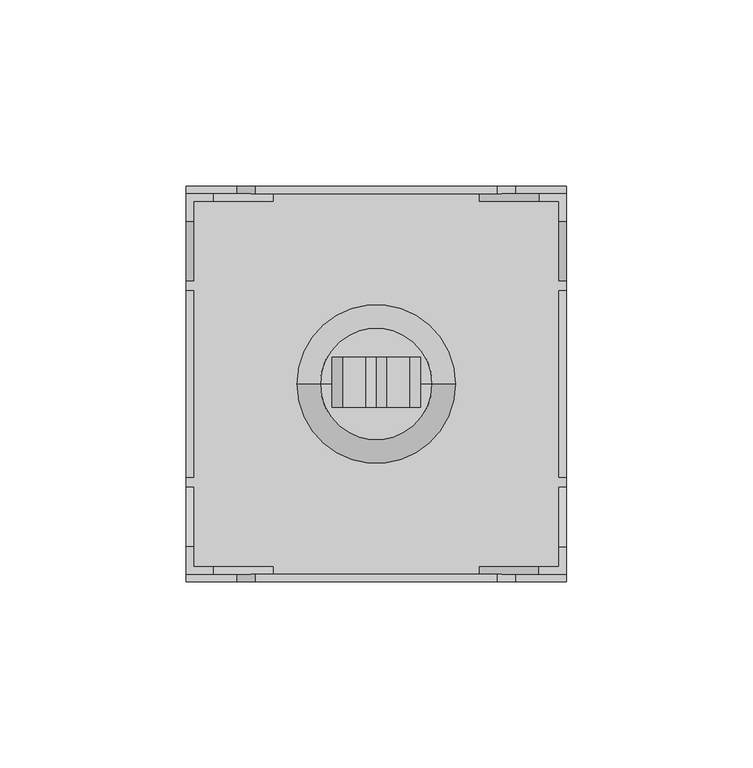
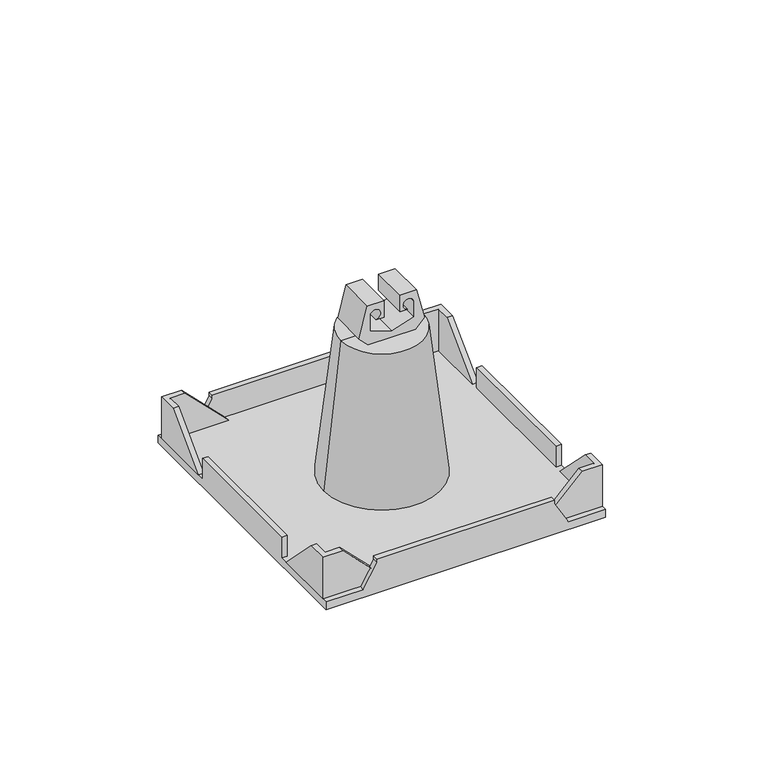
"""IFC4 building model written with IfcOpenShell, lengths in millimetres: proxy geometry, КНС_ДержательПластиковыйДляКровли_DKC : ND2104_Полипропилен."""

from ifc_helpers import new_model, si_unit, point, frame, frame_2d, origin, place, context, project, spatial, polyline, circle_curve, trimmed, segment, composite_curve, outline, extrude, faceted_brep, source, transform, mapped, element, save
from ifc_brep_helpers import plane_surface, revolved_surface, advanced_brep


def security_devices_07f9beaf(model_context):
    return source(origin(), model_context, "Body", "SolidModel", [
        faceted_brep([(51.0, -43.6824102, 19.0), (51.0, -51.0, 19.0), (51.0, -51.0, 3.0), (51.0, -27.6824102, 3.0), (49.0, -43.6824102, 19.0), (49.0, -27.6824102, 3.0), (49.0, -49.0, 3.0), (49.0, -49.0, 19.0), (43.6824102, -51.0, 19.0), (27.6824102, -51.0, 3.0), (27.6824102, -49.0, 3.0), (43.6824102, -49.0, 19.0)], [[[0, 1, 2, 3]], [[4, 5, 6, 7]], [[2, 1, 8, 9]], [[2, 9, 10, 6, 5, 3]], [[0, 3, 5, 4]], [[8, 1, 0, 4, 7, 11]], [[10, 11, 7, 6]], [[9, 8, 11, 10]]]),
        faceted_brep([(-51.0, 51.0, 19.0), (-43.6824102, 51.0, 19.0), (-27.6824102, 51.0, 3.0), (-51.0, 51.0, 3.0), (-27.6824102, 49.0, 3.0), (-43.6824102, 49.0, 19.0), (-49.0, 49.0, 19.0), (-49.0, 49.0, 3.0), (-51.0, 27.6824102, 3.0), (-51.0, 43.6824102, 19.0), (-49.0, 27.6824102, 3.0), (-49.0, 43.6824102, 19.0)], [[[0, 1, 2, 3]], [[4, 5, 6, 7]], [[0, 3, 8, 9]], [[8, 3, 2, 4, 7, 10]], [[2, 1, 5, 4]], [[0, 9, 11, 6, 5, 1]], [[11, 10, 7, 6]], [[9, 8, 10, 11]]]),
        faceted_brep([(43.6824102, 51.0, 19.0), (51.0, 51.0, 19.0), (51.0, 51.0, 3.0), (27.6824102, 51.0, 3.0), (43.6824102, 49.0, 19.0), (27.6824102, 49.0, 3.0), (49.0, 49.0, 3.0), (49.0, 49.0, 19.0), (51.0, 43.6824102, 19.0), (51.0, 27.6824102, 3.0), (49.0, 27.6824102, 3.0), (49.0, 43.6824102, 19.0)], [[[0, 1, 2, 3]], [[4, 5, 6, 7]], [[2, 1, 8, 9]], [[2, 9, 10, 6, 5, 3]], [[0, 3, 5, 4]], [[8, 1, 0, 4, 7, 11]], [[10, 11, 7, 6]], [[9, 8, 11, 10]]]),
        faceted_brep([(-43.6824102, -51.0, 19.0), (-51.0, -51.0, 19.0), (-51.0, -51.0, 3.0), (-27.6824102, -51.0, 3.0), (-43.6824102, -49.0, 19.0), (-27.6824102, -49.0, 3.0), (-49.0, -49.0, 3.0), (-49.0, -49.0, 19.0), (-51.0, -43.6824102, 19.0), (-51.0, -27.6824102, 3.0), (-49.0, -27.6824102, 3.0), (-49.0, -43.6824102, 19.0)], [[[0, 1, 2, 3]], [[4, 5, 6, 7]], [[2, 1, 8, 9]], [[2, 9, 10, 6, 5, 3]], [[0, 3, 5, 4]], [[8, 1, 0, 4, 7, 11]], [[10, 11, 7, 6]], [[9, 8, 11, 10]]]),
        faceted_brep([(-51.0, -25.0, 3.0), (-51.0, -25.0, 11.0), (-51.0, 25.0, 11.0), (-51.0, 25.0, 3.0), (-51.0, 53.0, 3.0), (-51.0, 53.0, 0.0), (-51.0, -53.0, 0.0), (-51.0, -53.0, 3.0), (-49.0, 25.0, 3.0), (-49.0, 25.0, 11.0), (-49.0, -25.0, 11.0), (-49.0, -25.0, 3.0), (-37.4385216, -53.0, 3.0), (-37.4385216, -51.0, 3.0), (37.4385216, -51.0, 3.0), (37.4385216, -53.0, 3.0), (51.0, -53.0, 3.0), (51.0, -25.0, 3.0), (49.0, -25.0, 3.0), (49.0, 25.0, 3.0), (51.0, 25.0, 3.0), (51.0, 53.0, 3.0), (37.4385216, 53.0, 3.0), (37.4385216, 51.0, 3.0), (-37.4385216, 51.0, 3.0), (-37.4385216, 53.0, 3.0), (51.0, 53.0, 0.0), (51.0, -53.0, 0.0), (32.4385216, -53.0, 11.660254), (32.4385216, -53.0, 13.0), (-32.4385216, -53.0, 13.0), (-32.4385216, -53.0, 11.660254), (51.0, 25.0, 11.0), (51.0, -25.0, 11.0), (-32.4385216, 53.0, 11.660254), (-32.4385216, 53.0, 13.0), (32.4385216, 53.0, 13.0), (32.4385216, 53.0, 11.660254), (-32.4385216, 51.0, 11.660254), (32.4385216, 51.0, 11.660254), (32.4385216, 51.0, 13.0), (-32.4385216, 51.0, 13.0), (49.0, -25.0, 11.0), (49.0, 25.0, 11.0), (-32.4385216, -51.0, 11.660254), (-32.4385216, -51.0, 13.0), (32.4385216, -51.0, 13.0), (32.4385216, -51.0, 11.660254)], [[[0, 1, 2, 3, 4, 5, 6, 7]], [[8, 9, 10, 11]], [[3, 2, 9, 8]], [[2, 1, 10, 9]], [[1, 0, 11, 10]], [[0, 7, 12, 13, 14, 15, 16, 17, 18, 19, 20, 21, 22, 23, 24, 25, 4, 3, 8, 11]], [[6, 5, 26, 27]], [[6, 27, 16, 15, 28, 29, 30, 31, 12, 7]], [[27, 26, 21, 20, 32, 33, 17, 16]], [[26, 5, 4, 25, 34, 35, 36, 37, 22, 21]], [[38, 24, 23, 39, 40, 41]], [[34, 25, 24, 38]], [[22, 37, 39, 23]], [[37, 36, 40, 39]], [[36, 35, 41, 40]], [[35, 34, 38, 41]], [[18, 42, 43, 19]], [[32, 20, 19, 43]], [[33, 32, 43, 42]], [[17, 33, 42, 18]], [[44, 45, 46, 47, 14, 13]], [[12, 31, 44, 13]], [[28, 15, 14, 47]], [[29, 28, 47, 46]], [[30, 29, 46, 45]], [[31, 30, 45, 44]]]),
        extrude(outline(composite_curve([segment(polyline([(74.0, -8.9961503), (62.2924549, -11.9151692), (59.0, -8.6227142), (59.0, 8.6227142), (62.2924549, 11.9151692), (74.0, 8.9961503), (74.0, 2.9431093), (67.6771521, 2.9431093), (67.6771521, 5.7192026)]), True, "CONTINUOUS"), segment(trimmed(circle_curve(frame_2d((69.6760157, 6.0431868)), 2.0249498), [point((67.6771521, 5.7192026))], [point((70.0, 8.0420505))], True, "CARTESIAN"), True, "CONTINUOUS"), segment(polyline([(70.0, 8.0420505), (64.0, 8.0420505), (61.3869794, 0.0), (64.0, -8.0420505), (70.0, -8.0420505)]), True, "CONTINUOUS"), segment(trimmed(circle_curve(frame_2d((69.6760157, -6.0431868)), 2.0249498), [point((70.0, -8.0420505))], [point((67.6771521, -5.7192026))], True, "CARTESIAN"), True, "CONTINUOUS"), segment(polyline([(67.6771521, -5.7192026), (67.6771521, -2.9431093), (74.0, -2.9431093), (74.0, -8.9961503)]), True, "CONTINUOUS")], self_intersect=False)), frame((0.0, -6.307554, 0.0), z_axis=(0.0, 1.0, 0.0), x_axis=(0.0, 0.0, 1.0)), (0.0, 0.0, 1.0), 13.4683697),
        advanced_brep(
        [(-21.3636364, 0.0, 3.0), (21.3636364, 0.0, 3.0), (0.0, 0.0, 3.0), (-15.0, 0.0, 59.0), (15.0, 0.0, 59.0), (0.0, 0.0, 59.0)],
        [
            (0, 1, circle_curve(frame((0.0, 0.0, 3.0), z_axis=(0.0, 0.0, -1.0), x_axis=(1.0, 0.0, 0.0)), 21.3636364)),
            (1, 2),
            (2, 0),
            (1, 0, circle_curve(frame((0.0, 0.0, 3.0), z_axis=(0.0, 0.0, -1.0), x_axis=(1.0, 0.0, 0.0)), 21.3636364)),
            (3, 4, circle_curve(frame((0.0, 0.0, 59.0), z_axis=(0.0, 0.0, -1.0), x_axis=(1.0, 0.0, 0.0)), 15.0)),
            (4, 1),
            (0, 3),
            (4, 3, circle_curve(frame((0.0, 0.0, 59.0), z_axis=(0.0, 0.0, -1.0), x_axis=(1.0, 0.0, 0.0)), 15.0)),
            (5, 4),
            (3, 5),
        ],
        [
            plane_surface(frame((0.0, 0.0, 3.0), z_axis=(0.0, 0.0, -1.0), x_axis=(1.0, 0.0, 0.0))),
            revolved_surface(polyline([(21.3636364, 0.0, 3.0), (15.0, 0.0, 59.0)]), (0.0, 0.0, 2214.3150031), (0.0, 0.0, 1.0)),
            plane_surface(frame((0.0, 0.0, 59.0), z_axis=(0.0, 0.0, 1.0), x_axis=(1.0, 0.0, 0.0))),
        ],
        [
            (0, [[1, 2, 3]]),
            (0, [[4, -3, -2]]),
            (1, [[5, 6, -1, 7]]),
            (1, [[8, -7, -4, -6]]),
            (2, [[9, -5, 10]]),
            (2, [[-10, -8, -9]]),
        ],
    ),
    ])


if __name__ == "__main__":
    model = new_model("IFC4")
    model_context = context("Model", 3, world=origin())
    ifc_project = project(units=[si_unit("LENGTHUNIT", "METRE", prefix="MILLI")], contexts=[model_context])
    site = spatial("IfcSite", under=ifc_project)
    building = spatial("IfcBuilding", under=site)
    placement = place(None, origin())
    security_devices_shape = security_devices_07f9beaf(model_context)
    element("IfcBuildingElementProxy", 1, Name="КНС_ДержательПластиковыйДляКровли_DKC : ND2104_Полипропилен", ObjectType="КНС_ДержательПластиковыйДляКровли_DKC : ND2104_Полипропилен", at=placement, inside=building, context=model_context, shape_type="MappedRepresentation", body=[
        mapped(security_devices_shape, transform((0.0, 0.0, 0.0), x_axis=(1.0, 0.0, 0.0), y_axis=(0.0, 1.0, 0.0), z_axis=(0.0, 0.0, 1.0))),
    ])
    save(model, "model.ifc")
